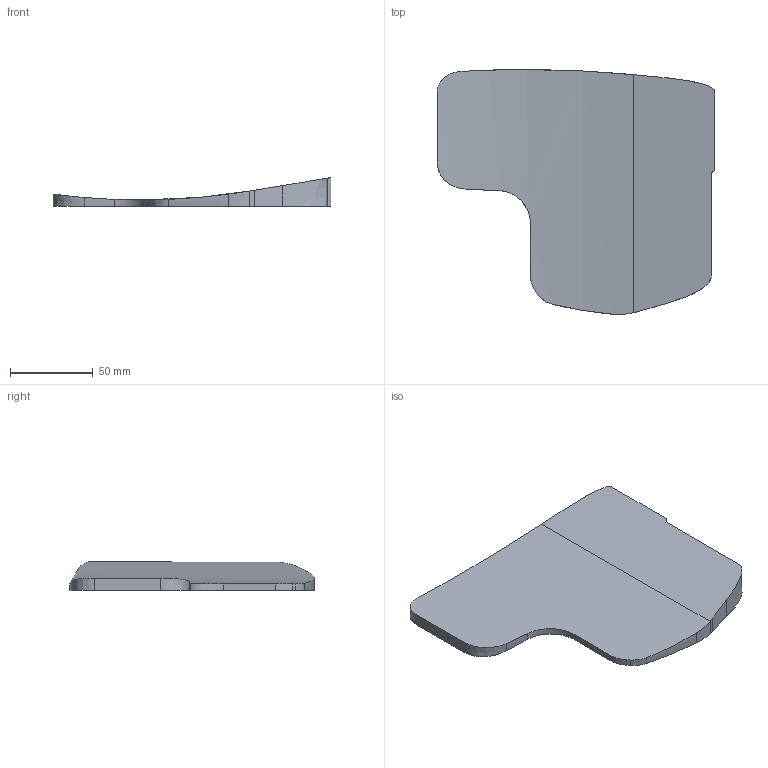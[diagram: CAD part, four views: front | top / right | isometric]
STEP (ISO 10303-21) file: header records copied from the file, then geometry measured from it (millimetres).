
FILE_DESCRIPTION(('CATIA V5 STEP Exchange'),'2;1');
FILE_NAME('D:\Gao Bingchuan\02-重卡\2.0平台\03-座盆\05-新开发座盆 降低H点_20241122\CNC 发泡\SHT0017073_CNC 00镶块.stp','2025-06-12T07:53:31+00:00',('none'),('none'),'CATIA Version 5 Release 20 SP 7 (IN-10)','CATIA V5 STEP AP203 Edition 2','none');
FILE_SCHEMA(('AP203_CONFIGURATION_CONTROLLED_3D_DESIGN_OF_MECHANICAL_PARTS_AND_ASSEMBLIES_MIM_LF { 1 0 10303 403 2 1 2}'));
Length unit declared in the file: millimetre
Products named in the file (1): SHT0017073_ALL NEW-002
Bounding box: 167.89 x 147.93 x 17.44 mm (x, y, z)
Volume: 155510 mm3; surface area: 44064.7 mm2
Topology: 1 solids, 1 shells, 24 faces, 64 edges, 42 vertices
Faces by surface type: extrusion 13, plane 9, cylinder 2
Entity records: 1332 total; most frequent: CARTESIAN_POINT 596, ORIENTED_EDGE 128, DIRECTION 69, EDGE_CURVE 64, VECTOR 49, VERTEX_POINT 42, B_SPLINE_CURVE_WITH_KNOTS 41, LINE 36
